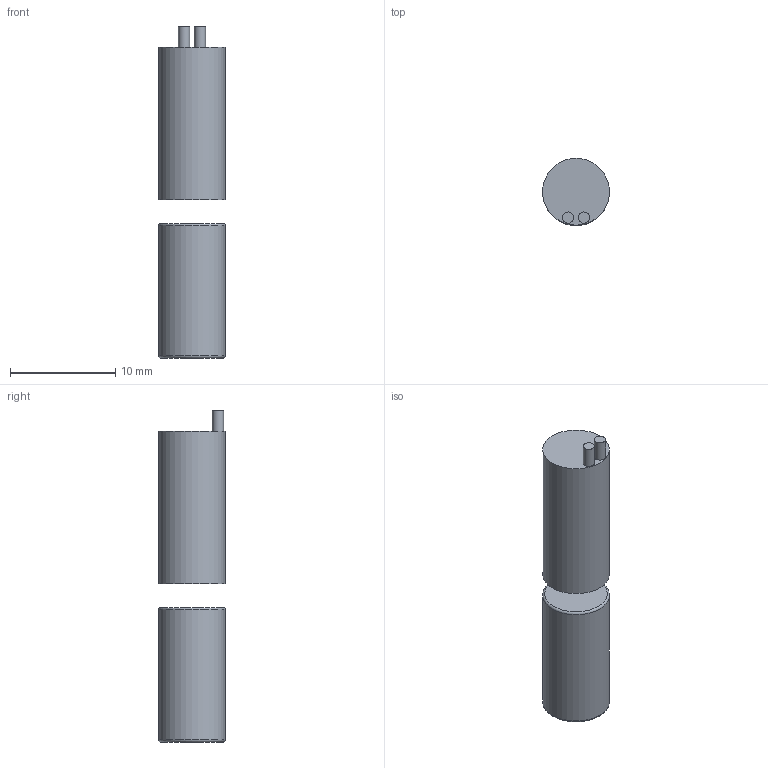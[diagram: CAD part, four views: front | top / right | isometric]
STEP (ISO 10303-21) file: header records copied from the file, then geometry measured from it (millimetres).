
FILE_DESCRIPTION(/* description */ ('Alibre Inc.'),/* implementation_level */ '2;1');
FILE_NAME(/* name */ 'export0',/* time_stamp */ '2013-08-21T10:12:09-06:00',/* author */ (''),/* organization */ (''),/* preprocessor_version */ 'ST-DEVELOPER v14',/* originating_system */ 'Alibre',/* authorisation */ '');
FILE_SCHEMA (('ALIBRE_SCHEMA','CONFIG_CONTROL_DESIGN'));
Length unit declared in the file: centimetre
Products named in the file (1): ID_1
Bounding box: 6.35 x 6.35 x 31.5 mm (x, y, z)
Volume: 866.2 mm3; surface area: 680.3 mm2
Topology: 2 solids, 2 shells, 12 faces, 16 edges, 10 vertices
Faces by surface type: plane 6, cylinder 4, torus 2
Full cylindrical faces by diameter (mm): 1.067 x1, 1.07 x1, 6.35 x2
Entity records: 830 total; most frequent: CARTESIAN_POINT 78, DIRECTION 55, INTEGERVALUEPAIR 33, AXIS2_PLACEMENT_3D 30, PERSISTANTTOPOLOGYATTRIBUTE 27, REALVALUEPAIR 24, REFERENCEDEPENDENTUV 22, ENTITYHEADERPROPERTIES 21
